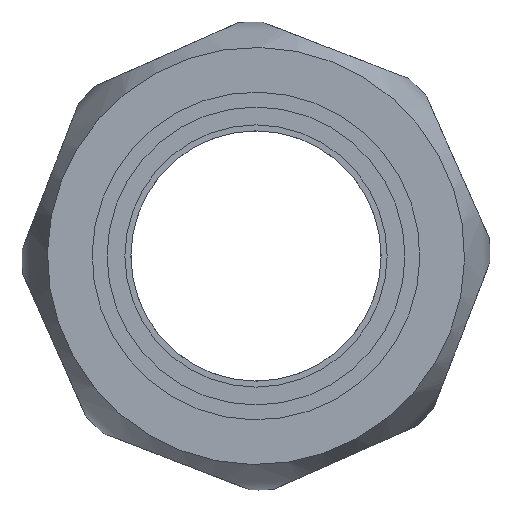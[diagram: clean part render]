
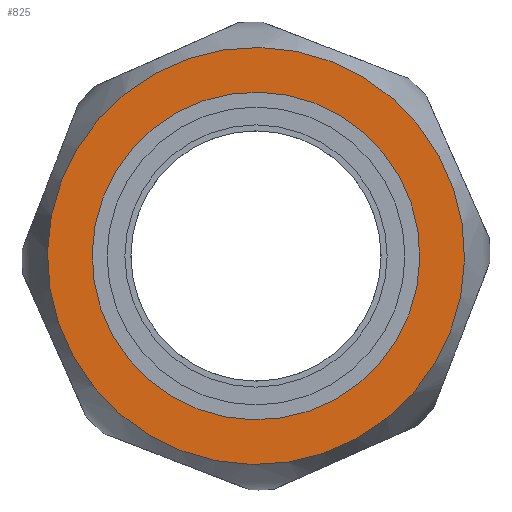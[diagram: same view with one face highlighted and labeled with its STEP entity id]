
A CAD part, left-side view. The second image highlights one B-rep face of the part: STEP entity #825.
In plain terms, the highlighted planar face has unit normal (-1, 0, 0).
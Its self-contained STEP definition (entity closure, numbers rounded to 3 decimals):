
#159=FACE_BOUND('',#278,.T.);
#195=FACE_OUTER_BOUND('',#277,.T.);
#277=EDGE_LOOP('',(#617,#618));
#278=EDGE_LOOP('',(#619));
#340=CIRCLE('',#902,17.5);
#341=CIRCLE('',#903,17.5);
#343=CIRCLE('',#907,13.75);
#402=VERTEX_POINT('',#1803);
#403=VERTEX_POINT('',#1807);
#405=VERTEX_POINT('',#1814);
#482=EDGE_CURVE('',#402,#403,#340,.T.);
#483=EDGE_CURVE('',#403,#402,#341,.T.);
#485=EDGE_CURVE('',#405,#405,#343,.T.);
#617=ORIENTED_EDGE('',*,*,#483,.F.);
#618=ORIENTED_EDGE('',*,*,#482,.F.);
#619=ORIENTED_EDGE('',*,*,#485,.T.);
#782=PLANE('',#908);
#825=ADVANCED_FACE('',(#195,#159),#782,.T.);
#902=AXIS2_PLACEMENT_3D('',#1808,#1059,#1060);
#903=AXIS2_PLACEMENT_3D('',#1809,#1061,#1062);
#907=AXIS2_PLACEMENT_3D('',#1815,#1069,#1070);
#908=AXIS2_PLACEMENT_3D('',#1816,#1071,#1072);
#1059=DIRECTION('center_axis',(1.,0.,0.));
#1060=DIRECTION('ref_axis',(0.,1.,0.));
#1061=DIRECTION('center_axis',(1.,0.,0.));
#1062=DIRECTION('ref_axis',(0.,1.,0.));
#1069=DIRECTION('center_axis',(1.,0.,0.));
#1070=DIRECTION('ref_axis',(0.,1.,0.));
#1071=DIRECTION('center_axis',(-1.,0.,0.));
#1072=DIRECTION('ref_axis',(0.,0.,1.));
#1803=CARTESIAN_POINT('',(0.,0.,17.5));
#1807=CARTESIAN_POINT('',(0.,17.5,0.));
#1808=CARTESIAN_POINT('Origin',(0.,0.,0.));
#1809=CARTESIAN_POINT('Origin',(0.,0.,0.));
#1814=CARTESIAN_POINT('',(0.,13.75,0.));
#1815=CARTESIAN_POINT('Origin',(0.,0.,0.));
#1816=CARTESIAN_POINT('Origin',(0.,15.625,0.));
